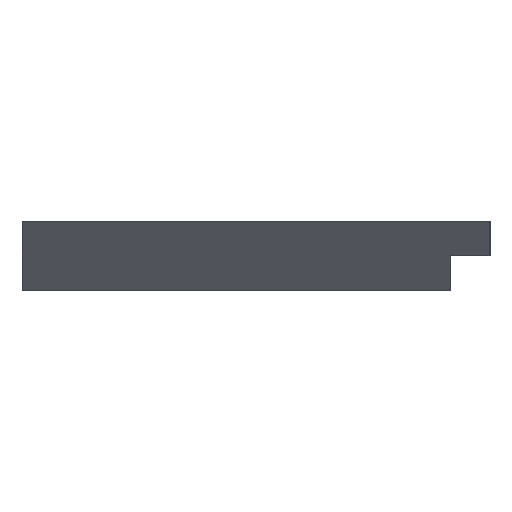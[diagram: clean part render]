
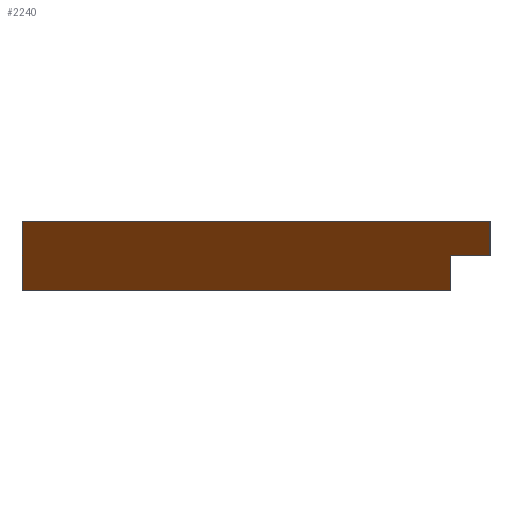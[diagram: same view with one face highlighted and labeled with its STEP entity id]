
A CAD part, left-side view. The second image highlights one B-rep face of the part: STEP entity #2240.
In plain terms, the highlighted planar face has unit normal (-0.707, 0, -0.707).
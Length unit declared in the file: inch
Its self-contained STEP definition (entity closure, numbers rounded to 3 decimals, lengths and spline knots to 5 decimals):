
#13 = VECTOR ( 'NONE', #2002, 39.37008 ) ;
#40 = LINE ( 'NONE', #4073, #1709 ) ;
#405 = EDGE_CURVE ( 'NONE', #2731, #2572, #2947, .T. ) ;
#534 = ORIENTED_EDGE ( 'NONE', *, *, #988, .F. ) ;
#838 = CARTESIAN_POINT ( 'NONE',  ( -3.75, 0.25, 2.25 ) ) ;
#859 = CARTESIAN_POINT ( 'NONE',  ( -4.1875, 0., 2.6875 ) ) ;
#891 = DIRECTION ( 'NONE',  ( 0., -1., 0. ) ) ;
#911 = CARTESIAN_POINT ( 'NONE',  ( -4.1875, 3., 2.6875 ) ) ;
#988 = EDGE_CURVE ( 'NONE', #2062, #4146, #1799, .T. ) ;
#1022 = ORIENTED_EDGE ( 'NONE', *, *, #4537, .T. ) ;
#1295 = EDGE_CURVE ( 'NONE', #2572, #4146, #40, .T. ) ;
#1327 = LINE ( 'NONE', #3715, #3539 ) ;
#1418 = DIRECTION ( 'NONE',  ( 0.707, 0., 0.707 ) ) ;
#1683 = ORIENTED_EDGE ( 'NONE', *, *, #4472, .F. ) ;
#1709 = VECTOR ( 'NONE', #4388, 39.37008 ) ;
#1721 = CARTESIAN_POINT ( 'NONE',  ( -3.96875, 0., 2.46875 ) ) ;
#1722 = ORIENTED_EDGE ( 'NONE', *, *, #1295, .T. ) ;
#1793 = AXIS2_PLACEMENT_3D ( 'NONE', #3347, #1418, #2537 ) ;
#1799 = LINE ( 'NONE', #3821, #13 ) ;
#1873 = CARTESIAN_POINT ( 'NONE',  ( -3.75, 3., 2.25 ) ) ;
#2002 = DIRECTION ( 'NONE',  ( 0.707, 0., -0.707 ) ) ;
#2028 = CARTESIAN_POINT ( 'NONE',  ( -4.1875, 3., 2.6875 ) ) ;
#2062 = VERTEX_POINT ( 'NONE', #2523 ) ;
#2240 = ADVANCED_FACE ( 'NONE', ( #3319 ), #4407, .F. ) ;
#2523 = CARTESIAN_POINT ( 'NONE',  ( -3.96875, 0.25, 2.46875 ) ) ;
#2537 = DIRECTION ( 'NONE',  ( 0.707, 0., -0.707 ) ) ;
#2572 = VERTEX_POINT ( 'NONE', #1873 ) ;
#2576 = EDGE_LOOP ( 'NONE', ( #534, #1022, #1683, #2892, #4489, #1722 ) ) ;
#2731 = VERTEX_POINT ( 'NONE', #4263 ) ;
#2892 = ORIENTED_EDGE ( 'NONE', *, *, #3185, .F. ) ;
#2947 = LINE ( 'NONE', #911, #4291 ) ;
#3008 = LINE ( 'NONE', #3732, #3421 ) ;
#3061 = LINE ( 'NONE', #2028, #4705 ) ;
#3185 = EDGE_CURVE ( 'NONE', #2731, #3573, #3061, .T. ) ;
#3319 = FACE_OUTER_BOUND ( 'NONE', #2576, .T. ) ;
#3347 = CARTESIAN_POINT ( 'NONE',  ( -4.1875, 0., 2.6875 ) ) ;
#3421 = VECTOR ( 'NONE', #4505, 39.37008 ) ;
#3539 = VECTOR ( 'NONE', #4805, 39.37008 ) ;
#3573 = VERTEX_POINT ( 'NONE', #859 ) ;
#3715 = CARTESIAN_POINT ( 'NONE',  ( -4.1875, 0., 2.6875 ) ) ;
#3732 = CARTESIAN_POINT ( 'NONE',  ( -3.96875, 0.25, 2.46875 ) ) ;
#3821 = CARTESIAN_POINT ( 'NONE',  ( -4.1875, 0.25, 2.6875 ) ) ;
#3830 = DIRECTION ( 'NONE',  ( 0.707, 0., -0.707 ) ) ;
#4073 = CARTESIAN_POINT ( 'NONE',  ( -3.75, 3., 2.25 ) ) ;
#4146 = VERTEX_POINT ( 'NONE', #838 ) ;
#4188 = VERTEX_POINT ( 'NONE', #1721 ) ;
#4263 = CARTESIAN_POINT ( 'NONE',  ( -4.1875, 3., 2.6875 ) ) ;
#4291 = VECTOR ( 'NONE', #3830, 39.37008 ) ;
#4388 = DIRECTION ( 'NONE',  ( 0., -1., 0. ) ) ;
#4407 = PLANE ( 'NONE',  #1793 ) ;
#4472 = EDGE_CURVE ( 'NONE', #3573, #4188, #1327, .T. ) ;
#4489 = ORIENTED_EDGE ( 'NONE', *, *, #405, .T. ) ;
#4505 = DIRECTION ( 'NONE',  ( 0., -1., 0. ) ) ;
#4537 = EDGE_CURVE ( 'NONE', #2062, #4188, #3008, .T. ) ;
#4705 = VECTOR ( 'NONE', #891, 39.37008 ) ;
#4805 = DIRECTION ( 'NONE',  ( 0.707, 0., -0.707 ) ) ;
